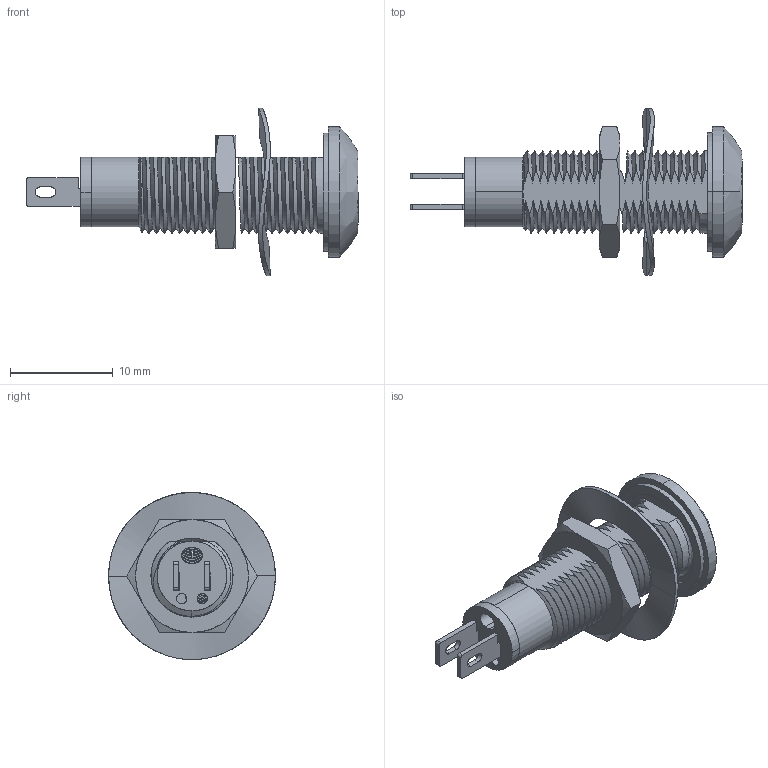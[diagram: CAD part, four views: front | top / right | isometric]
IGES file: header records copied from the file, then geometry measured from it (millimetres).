
Start section: SolidWorks IGES file using analytic representation for surfaces
Global section: file name: C:\Users\paulr\Desktop\698 WITH TAGS .IGS; native system: SolidWorks 2013; preprocessor: SolidWorks 2013; author: paulr; date: 130917.102128; units: millimetre
Bounding box: 32.35 x 16.25 x 16.31 mm (x, y, z)
Surface area: 1859.7 mm2 (no closed solid volume)
Topology: 0 solids, 0 shells, 271 faces, 3890 edges, 3884 vertices
Faces by surface type: bspline 171, revolution 100
